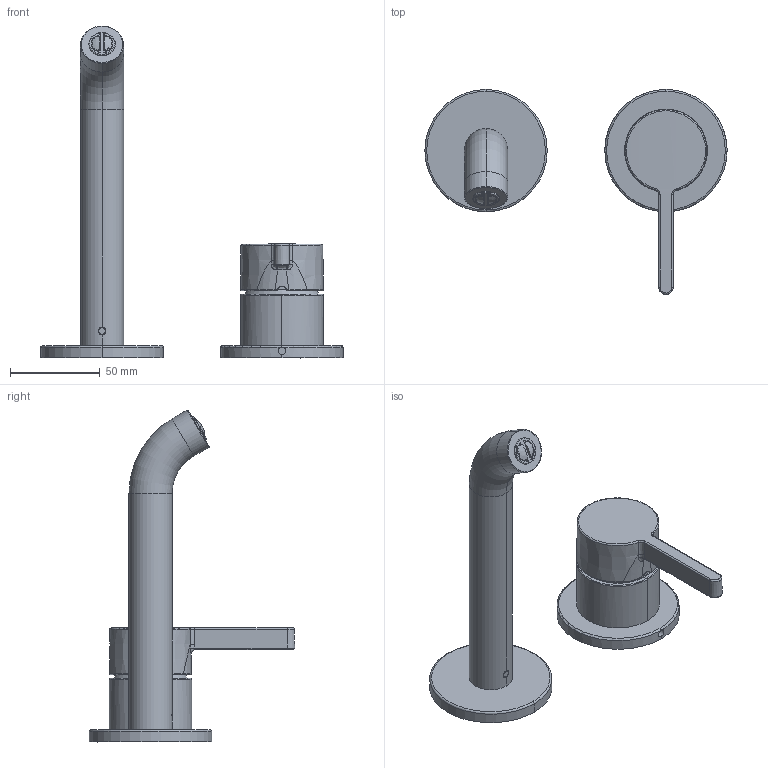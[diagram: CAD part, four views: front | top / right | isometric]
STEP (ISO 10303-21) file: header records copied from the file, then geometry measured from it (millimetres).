
FILE_DESCRIPTION((''),'2;1');
FILE_NAME('BEVO_A175_SW0001','2020-05-01T17:05:39',('DB991'),(''),'CREO PARAMETRIC BY PTC INC, 2018500','CREO PARAMETRIC BY PTC INC, 2018500','');
FILE_SCHEMA(('CONFIG_CONTROL_DESIGN'));
Length unit declared in the file: millimetre
Products named in the file (1): BEVO_A175_SW0001
Bounding box: 168 x 114.1 x 184.55 mm (x, y, z)
Volume: 228309.2 mm3; surface area: 42033.7 mm2
Topology: 2 solids, 3 shells, 220 faces, 588 edges, 386 vertices
Faces by surface type: plane 77, torus 77, cylinder 26, bspline 21, sphere 13, cone 6
Entity records: 10461 total; most frequent: CARTESIAN_POINT 5178, ORIENTED_EDGE 1176, DIRECTION 1031, EDGE_CURVE 588, AXIS2_PLACEMENT_3D 451, VERTEX_POINT 386, CIRCLE 252, EDGE_LOOP 232
